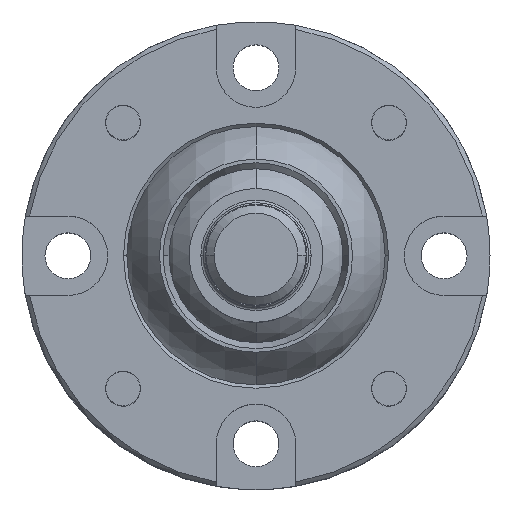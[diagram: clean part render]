
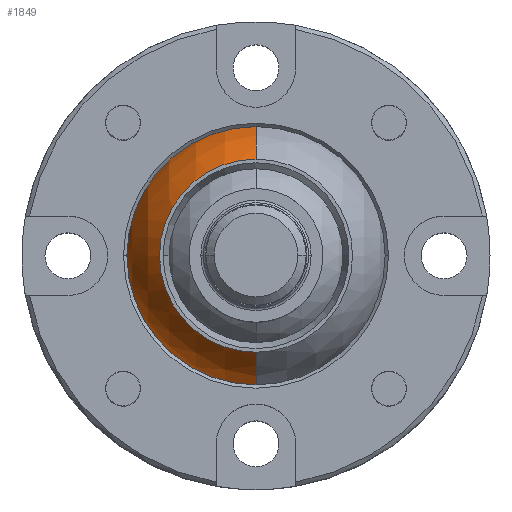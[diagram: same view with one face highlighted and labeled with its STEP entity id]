
A CAD part, top view. The second image highlights one B-rep face of the part: STEP entity #1849.
In plain terms, the highlighted spherical face has radius 16.3 mm.
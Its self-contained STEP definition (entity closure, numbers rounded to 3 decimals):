
#119 = VERTEX_POINT ( 'NONE', #1780 ) ;
#192 = VERTEX_POINT ( 'NONE', #6141 ) ;
#337 = CIRCLE ( 'NONE', #5162, 16.3 ) ;
#358 = VERTEX_POINT ( 'NONE', #6209 ) ;
#428 = EDGE_CURVE ( 'NONE', #192, #2752, #5099, .T. ) ;
#467 = DIRECTION ( 'NONE',  ( 0., 0., -1. ) ) ;
#698 = ORIENTED_EDGE ( 'NONE', *, *, #428, .T. ) ;
#927 = DIRECTION ( 'NONE',  ( 0., 1., 0. ) ) ;
#1125 = EDGE_CURVE ( 'NONE', #2752, #358, #6472, .T. ) ;
#1308 = DIRECTION ( 'NONE',  ( 1., 0., 0. ) ) ;
#1327 = AXIS2_PLACEMENT_3D ( 'NONE', #1858, #1828, #5556 ) ;
#1461 = CARTESIAN_POINT ( 'NONE',  ( 0., 0., 0. ) ) ;
#1571 = ORIENTED_EDGE ( 'NONE', *, *, #2141, .F. ) ;
#1586 = CARTESIAN_POINT ( 'NONE',  ( 0., -16., 3.113 ) ) ;
#1780 = CARTESIAN_POINT ( 'NONE',  ( 0., 11.552, 11.5 ) ) ;
#1828 = DIRECTION ( 'NONE',  ( 0., 0., 1. ) ) ;
#1849 = ADVANCED_FACE ( 'NONE', ( #4726 ), #6390, .T. ) ;
#1858 = CARTESIAN_POINT ( 'NONE',  ( 0., 0., 3.113 ) ) ;
#1895 = CIRCLE ( 'NONE', #1327, 16. ) ;
#2000 = AXIS2_PLACEMENT_3D ( 'NONE', #6105, #4575, #1308 ) ;
#2141 = EDGE_CURVE ( 'NONE', #119, #358, #4676, .T. ) ;
#2620 = DIRECTION ( 'NONE',  ( 1., 0., 0. ) ) ;
#2752 = VERTEX_POINT ( 'NONE', #1586 ) ;
#2860 = EDGE_CURVE ( 'NONE', #6356, #192, #1895, .T. ) ;
#3044 = ORIENTED_EDGE ( 'NONE', *, *, #1125, .T. ) ;
#3146 = DIRECTION ( 'NONE',  ( 1., 0., 0. ) ) ;
#3208 = DIRECTION ( 'NONE',  ( 0., 0., 1. ) ) ;
#3305 = CARTESIAN_POINT ( 'NONE',  ( 0., 0., 0. ) ) ;
#3527 = AXIS2_PLACEMENT_3D ( 'NONE', #6450, #3208, #2620 ) ;
#3576 = CARTESIAN_POINT ( 'NONE',  ( 0., 0., 0. ) ) ;
#4064 = DIRECTION ( 'NONE',  ( -1., 0., 0. ) ) ;
#4191 = DIRECTION ( 'NONE',  ( -1., 0., 0. ) ) ;
#4575 = DIRECTION ( 'NONE',  ( 0., 0., 1. ) ) ;
#4676 = CIRCLE ( 'NONE', #2000, 11.552 ) ;
#4726 = FACE_OUTER_BOUND ( 'NONE', #6827, .T. ) ;
#4734 = CARTESIAN_POINT ( 'NONE',  ( 0., 16., 3.113 ) ) ;
#4985 = ORIENTED_EDGE ( 'NONE', *, *, #2860, .T. ) ;
#5099 = CIRCLE ( 'NONE', #3527, 16. ) ;
#5107 = ORIENTED_EDGE ( 'NONE', *, *, #5241, .F. ) ;
#5162 = AXIS2_PLACEMENT_3D ( 'NONE', #3305, #3146, #467 ) ;
#5190 = DIRECTION ( 'NONE',  ( 0., 0., 1. ) ) ;
#5241 = EDGE_CURVE ( 'NONE', #6356, #119, #337, .T. ) ;
#5462 = AXIS2_PLACEMENT_3D ( 'NONE', #3576, #4064, #5190 ) ;
#5556 = DIRECTION ( 'NONE',  ( 1., 0., 0. ) ) ;
#5588 = AXIS2_PLACEMENT_3D ( 'NONE', #1461, #4191, #927 ) ;
#6105 = CARTESIAN_POINT ( 'NONE',  ( 0., 0., 11.5 ) ) ;
#6141 = CARTESIAN_POINT ( 'NONE',  ( -16., 0., 3.113 ) ) ;
#6209 = CARTESIAN_POINT ( 'NONE',  ( 0., -11.552, 11.5 ) ) ;
#6356 = VERTEX_POINT ( 'NONE', #4734 ) ;
#6390 = SPHERICAL_SURFACE ( 'NONE', #5588, 16.3 ) ;
#6450 = CARTESIAN_POINT ( 'NONE',  ( 0., 0., 3.113 ) ) ;
#6472 = CIRCLE ( 'NONE', #5462, 16.3 ) ;
#6827 = EDGE_LOOP ( 'NONE', ( #4985, #698, #3044, #1571, #5107 ) ) ;
